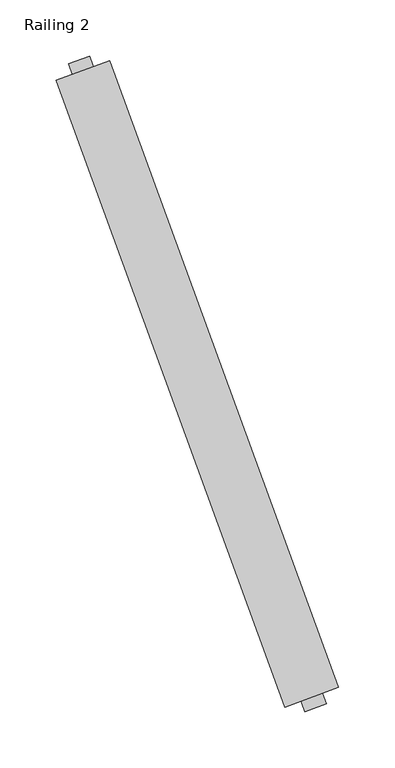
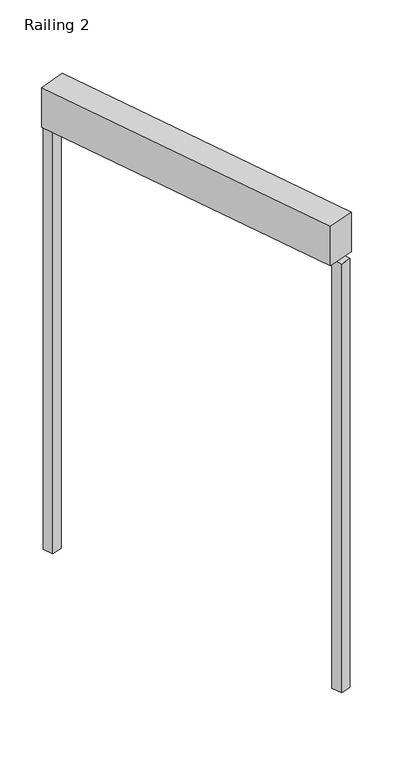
"""IFC4 building model written with IfcOpenShell, lengths in millimetres: railing geometry, Railing 2."""

from ifc_helpers import new_model, si_unit, frame, origin, place, context, project, spatial, polyline, outline, extrude, source, transform, mapped, element, save


def railing_2_c78d901e(model_context):
    return source(origin(), model_context, "Body", "SweptSolid", [
        extrude(outline(polyline([(37236.6233562, 12305.6532651), (37188.9128155, 12288.2077985), (36985.0630704, 12845.7040116), (37032.7736111, 12863.1494782), (37236.6233562, 12305.6532651)])), frame((0.0, 0.0, 3323.8), z_axis=(0.0, 0.0, 1.0), x_axis=(1.0, 0.0, 0.0)), (0.0, 0.0, 1.0), 76.2),
        extrude(outline(polyline([(37002.960649, 12841.6007592), (36996.0923551, 12860.3844366), (37014.8760325, 12867.2527306), (37021.7443265, 12848.4690531), (37002.960649, 12841.6007592)])), frame((0.0, 0.0, 2500.0), z_axis=(0.0, 0.0, 1.0), x_axis=(1.0, 0.0, 0.0)), (0.0, 0.0, 1.0), 823.8),
        extrude(outline(polyline([(37206.8103941, 12284.1045461), (37199.9421001, 12302.8882235), (37218.7257776, 12309.7565175), (37225.5940715, 12290.97284), (37206.8103941, 12284.1045461)])), frame((0.0, 0.0, 2500.0), z_axis=(0.0, 0.0, 1.0), x_axis=(1.0, 0.0, 0.0)), (0.0, 0.0, 1.0), 823.8),
    ])


if __name__ == "__main__":
    model = new_model("IFC4")
    model_context = context("Model", 3, world=origin())
    ifc_project = project(units=[si_unit("LENGTHUNIT", "METRE", prefix="MILLI")], contexts=[model_context])
    site = spatial("IfcSite", under=ifc_project)
    building = spatial("IfcBuilding", under=site)
    placement = place(None, origin())
    railing_2_shape = railing_2_c78d901e(model_context)
    element("IfcRailing", 1, ObjectType="Railing 2", at=placement, inside=building, context=model_context, shape_type="MappedRepresentation", body=[
        mapped(railing_2_shape, transform((0.0, 0.0, 0.0), x_axis=(1.0, 0.0, 0.0), y_axis=(0.0, 1.0, 0.0), z_axis=(0.0, 0.0, 1.0))),
    ])
    save(model, "model.ifc")
